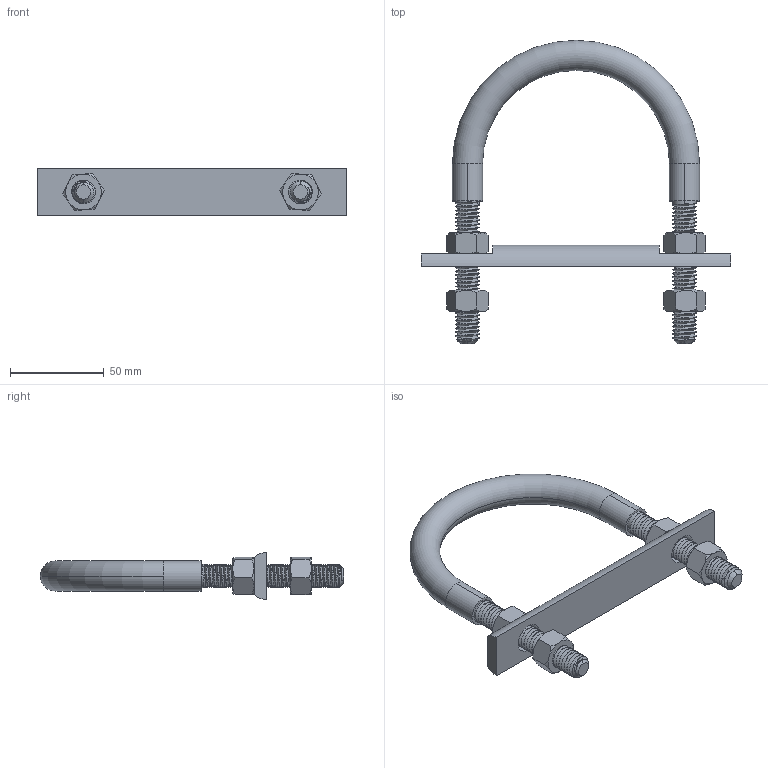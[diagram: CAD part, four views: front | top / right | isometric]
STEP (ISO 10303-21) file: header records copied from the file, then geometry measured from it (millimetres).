
FILE_DESCRIPTION (( 'STEP AP214' ), '1' );
FILE_NAME ('NUB1466.STEP', '2022-04-04T16:59:38', ( '' ), ( '' ), 'SwSTEP 2.0', 'SolidWorks 2021', '' );
FILE_SCHEMA (( 'AUTOMOTIVE_DESIGN' ));
Length unit declared in the file: inch
Products named in the file (4): UBT0993_UBT12-3-0.5-13 [NUB1466]; FAS0046; ROD0640_IR12-3 XL [ROD0640]; NUB1466
Assembly tree (6 placements, depth 2):
  NUB1466
    FAS0046  x4
    UBT0993_UBT12-3-0.5-13 [NUB1466]
    ROD0640_IR12-3 XL [ROD0640]
Bounding box: 165.1 x 162.02 x 25.27 mm (x, y, z)
Volume: 96632.4 mm3; surface area: 56098.1 mm2
Topology: 7 solids, 7 shells, 308 faces, 800 edges, 506 vertices
Faces by surface type: cylinder 175, cone 78, plane 45, torus 6, bspline 4
Entity records: 17677 total; most frequent: CARTESIAN_POINT 12563, ORIENTED_EDGE 1216, DIRECTION 812, EDGE_CURVE 608, VERTEX_POINT 398, AXIS2_PLACEMENT_3D 307, EDGE_LOOP 226, ADVANCED_FACE 218
